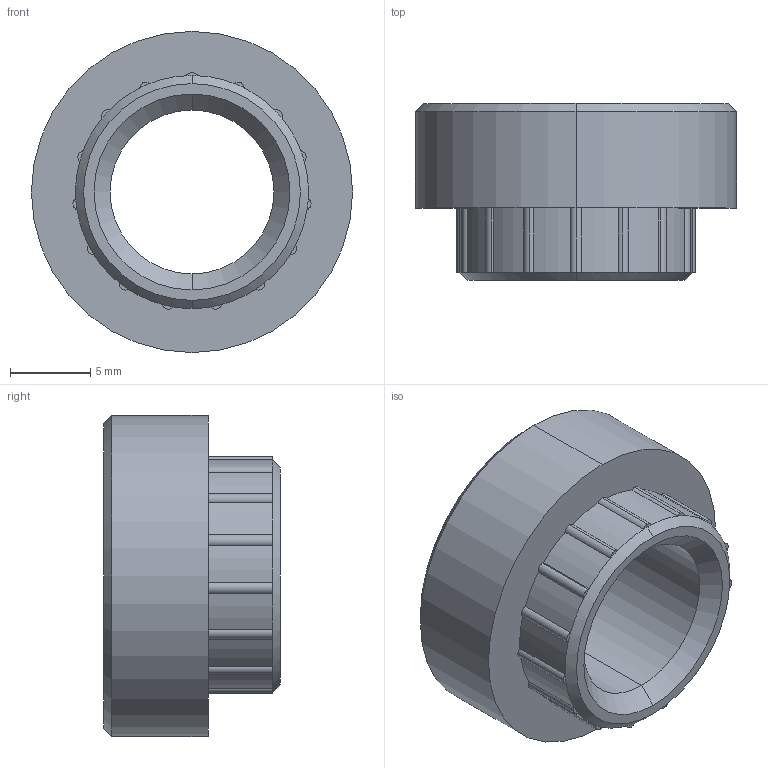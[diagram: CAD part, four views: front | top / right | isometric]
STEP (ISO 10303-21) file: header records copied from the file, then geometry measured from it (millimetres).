
FILE_DESCRIPTION (( 'STEP AP214' ), '1' );
FILE_NAME ('4.NR.01.00.STEP', '2016-10-11T10:51:32', ( '' ), ( '' ), 'SwSTEP 2.0', 'SolidWorks 2015', '' );
FILE_SCHEMA (( 'AUTOMOTIVE_DESIGN' ));
Length unit declared in the file: millimetre
Products named in the file (1): 4.NR.01.00
Bounding box: 20 x 11 x 20 mm (x, y, z)
Volume: 1844.9 mm3; surface area: 1372.7 mm2
Topology: 1 solids, 1 shells, 66 faces, 152 edges, 89 vertices
Faces by surface type: cylinder 40, plane 18, cone 8
Entity records: 1944 total; most frequent: DIRECTION 390, CARTESIAN_POINT 308, ORIENTED_EDGE 304, AXIS2_PLACEMENT_3D 171, EDGE_CURVE 152, CIRCLE 104, VERTEX_POINT 89, EDGE_LOOP 69
